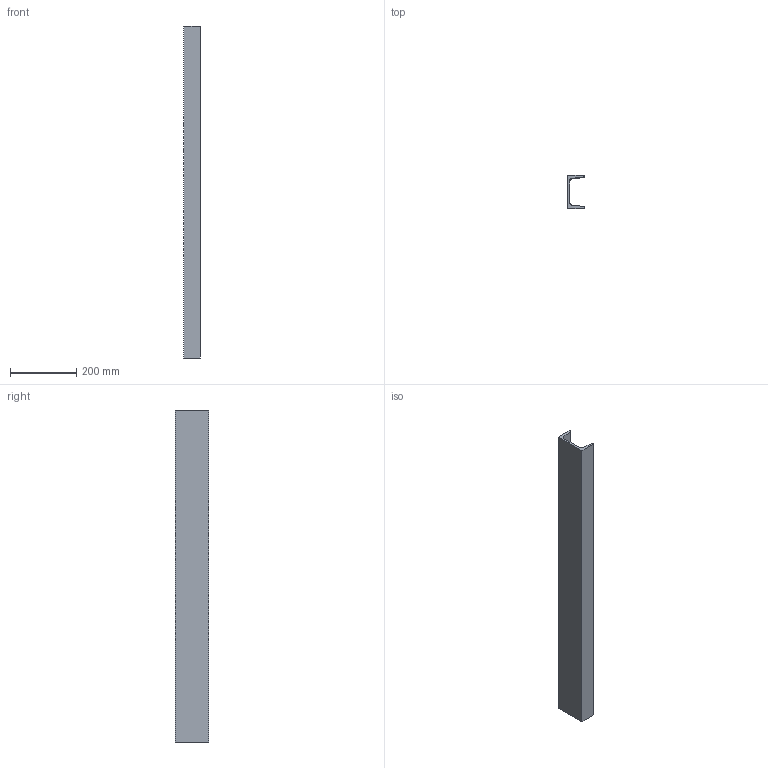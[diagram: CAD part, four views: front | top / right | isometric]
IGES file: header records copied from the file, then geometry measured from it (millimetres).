
Start section: SolidWorks IGES file using analytic representation for surfaces
Global section: file name: C:\Documents and Settings\Pc\Escritorio\Modelos 3D\Capítulo 3 (Pandeo)\PRACTICAS PROPUESTAS\Canal c.IGS; native system: SolidWorks 2010; preprocessor: SolidWorks 2010; author: Pc; date: 100623.113329; units: millimetre
Bounding box: 50 x 100 x 1000 mm (x, y, z)
Surface area: 373667.8 mm2 (no closed solid volume)
Topology: 0 solids, 0 shells, 14 faces, 128 edges, 128 vertices
Faces by surface type: bspline 10, revolution 4
